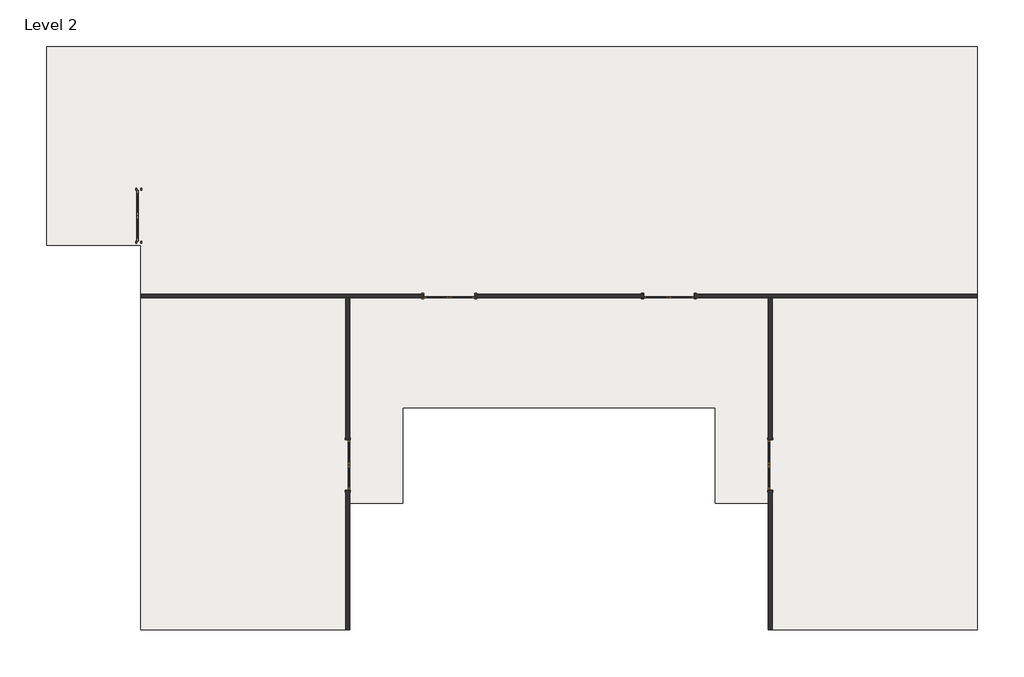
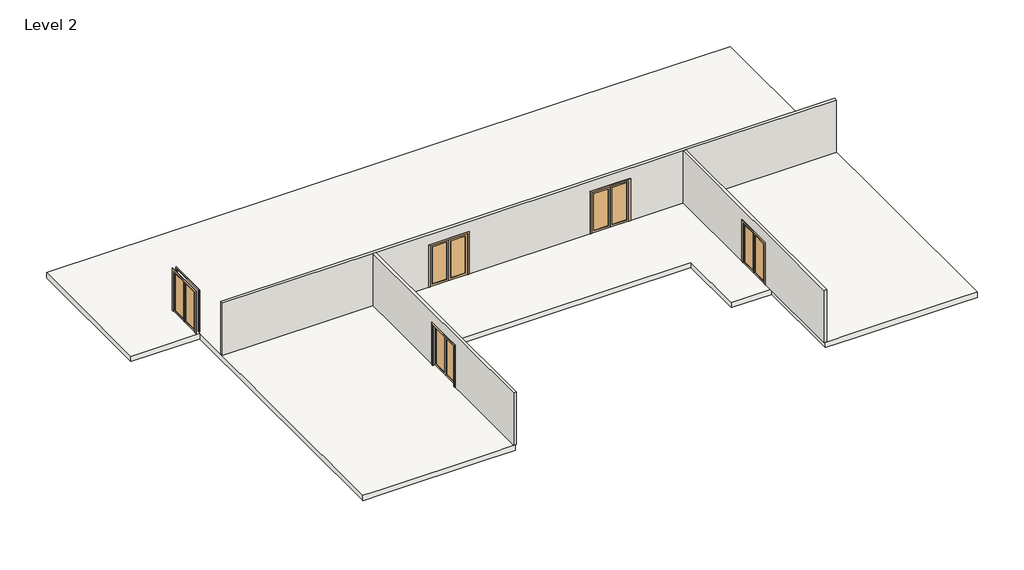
# One storey, incomplete: 5 doors, 3 walls, 1 slab.
"""IFC4 building model written with IfcOpenShell, lengths in millimetres."""

from ifc_helpers import new_model, si_unit, origin, place, context, project, spatial, faceted_brep, transform, mapped, element, save
from components import door_cb31edf2, door_3f2f997e

model = new_model("IFC4")

# Units and contexts
model_context = context("Model", 3, world=origin())
ifc_project = project(units=[si_unit("LENGTHUNIT", "METRE", prefix="MILLI")], contexts=[model_context])

# Site, building, storey
site = spatial("IfcSite", under=ifc_project)
building = spatial("IfcBuilding", under=site)
storey = spatial("IfcBuildingStorey", under=building, Name="Level 2", Elevation=3048.0)

# Doors
placement = place(None, origin())
door_shape = door_cb31edf2(model_context)
element("IfcDoor", 1, ObjectType="Door-Double-Glass : 72\" x 84\"", at=placement, inside=storey, context=model_context, shape_type="MappedRepresentation", body=[
    mapped(door_shape, transform((-18248.748632, 9505.1983604, 3048.0), x_axis=(0.0, 1.0, 0.0), y_axis=(-1.0, 0.0, 0.0), z_axis=(0.0, 0.0, 1.0))),
])
door_2_shape = door_3f2f997e(model_context)
element("IfcDoor", 2, ObjectType="Door-Double-Glass : 72\" x 84\"", at=placement, inside=storey, context=model_context, shape_type="MappedRepresentation", body=[
    mapped(door_2_shape, transform((-10711.298632, 513.5983604, 3048.0), x_axis=(0.0, -1.0, 0.0), y_axis=(1.0, 0.0, 0.0), z_axis=(0.0, 0.0, 1.0))),
])
element("IfcDoor", 3, ObjectType="Door-Double-Glass : 72\" x 84\"", at=placement, inside=storey, context=model_context, shape_type="MappedRepresentation", body=[
    mapped(door_2_shape, transform((4533.463868, 513.5983604, 3048.0), x_axis=(0.0, 1.0, 0.0), y_axis=(-1.0, 0.0, 0.0), z_axis=(0.0, 0.0, 1.0))),
])
element("IfcDoor", 4, ObjectType="Door-Double-Glass : 72\" x 84\"", at=placement, inside=storey, context=model_context, shape_type="MappedRepresentation", body=[
    mapped(door_2_shape, transform((-7051.317382, 6611.9796104, 3048.0), x_axis=(-1.0, 0.0, 0.0), y_axis=(0.0, -1.0, 0.0), z_axis=(0.0, 0.0, 1.0))),
])
element("IfcDoor", 5, ObjectType="Door-Double-Glass : 72\" x 84\"", at=placement, inside=storey, context=model_context, shape_type="MappedRepresentation", body=[
    mapped(door_2_shape, transform((873.482618, 6611.9796104, 3048.0), x_axis=(-1.0, 0.0, 0.0), y_axis=(0.0, -1.0, 0.0), z_axis=(0.0, 0.0, 1.0))),
])

# Slab
element("IfcSlab", 6, ObjectType="Wood Joist 10\" - Wood Finish", at=placement, inside=storey, context=model_context, shape_type="Brep", body=[
    faceted_brep([(12008.207618, 15610.7233604, 2774.95), (12008.207618, 15598.0233604, 2774.95), (12008.207618, -5439.5266396, 2774.95), (11995.507618, -5439.5266396, 2774.95), (11084.282618, -5439.5266396, 2774.95), (5902.682618, -5439.5266396, 2774.95), (4531.082618, -5439.5266396, 2774.95), (4531.082618, -5426.8266396, 2774.95), (4531.082618, -867.5266396, 2774.95), (2549.882618, -867.5266396, 2774.95), (2549.882618, 2570.7578314, 2774.95), (-8727.717382, 2570.7578314, 2774.95), (-8727.717382, -867.5266396, 2774.95), (-10708.917382, -867.5266396, 2774.95), (-10708.917382, -5426.8266396, 2774.95), (-10708.917382, -5439.5266396, 2774.95), (-12080.517382, -5439.5266396, 2774.95), (-17262.117382, -5439.5266396, 2774.95), (-18186.042382, -5439.5266396, 2774.95), (-18186.042382, -5426.8266396, 2774.95), (-18186.042382, 8438.3983604, 2774.95), (-21580.117382, 8438.3983604, 2774.95), (-21580.117382, 15610.7233604, 2774.95), (-21424.542382, 15610.7233604, 2774.95), (-10708.917382, 15610.7233604, 2774.95), (4531.082618, 15610.7233604, 2774.95), (12008.207618, 15610.7233604, 3048.0), (4531.082618, 15610.7233604, 3048.0), (-10708.917382, 15610.7233604, 3048.0), (-21424.542382, 15610.7233604, 3048.0), (-21580.117382, 15610.7233604, 3048.0), (-21580.117382, 8438.3983604, 3048.0), (-18186.042382, 8438.3983604, 3048.0), (-18186.042382, -5426.8266396, 3048.0), (-18186.042382, -5439.5266396, 3048.0), (-17262.117382, -5439.5266396, 3048.0), (-12080.517382, -5439.5266396, 3048.0), (-10708.917382, -5439.5266396, 3048.0), (-10708.917382, -5426.8266396, 3048.0), (-10708.917382, -867.5266396, 3048.0), (-8727.717382, -867.5266396, 3048.0), (-8727.717382, 2570.7578314, 3048.0), (2549.882618, 2570.7578314, 3048.0), (2549.882618, -867.5266396, 3048.0), (4531.082618, -867.5266396, 3048.0), (4531.082618, -5426.8266396, 3048.0), (4531.082618, -5439.5266396, 3048.0), (5902.682618, -5439.5266396, 3048.0), (11084.282618, -5439.5266396, 3048.0), (11995.507618, -5439.5266396, 3048.0), (12008.207618, -5439.5266396, 3048.0), (12008.207618, 15598.0233604, 3048.0)], [[[0, 1, 2, 3, 4, 5, 6, 7, 8, 9, 10, 11, 12, 13, 14, 15, 16, 17, 18, 19, 20, 21, 22, 23, 24, 25]], [[26, 27, 28, 29, 30, 31, 32, 33, 34, 35, 36, 37, 38, 39, 40, 41, 42, 43, 44, 45, 46, 47, 48, 49, 50, 51]], [[2, 1, 0, 26, 51, 50]], [[6, 5, 4, 3, 2, 50, 49, 48, 47, 46]], [[10, 9, 43, 42]], [[11, 10, 42, 41]], [[12, 11, 41, 40]], [[18, 17, 16, 15, 37, 36, 35, 34]], [[20, 19, 18, 34, 33, 32]], [[21, 20, 32, 31]], [[22, 21, 31, 30]], [[0, 25, 24, 23, 22, 30, 29, 28, 27, 26]], [[8, 7, 6, 46, 45, 44]], [[9, 8, 44, 43]], [[13, 12, 40, 39]], [[15, 14, 13, 39, 38, 37]]]),
])

# Walls
element("IfcWall", 7, ObjectType="Interior - 5 1/2\" Partition (1-hr)", at=placement, inside=storey, context=model_context, shape_type="Brep", body=[
    faceted_brep([(-6136.917382, 6539.7483604, 3048.0), (-40.917382, 6539.7483604, 3048.0), (-40.917382, 6539.7483604, 5181.6), (1787.882618, 6539.7483604, 5181.6), (1787.882618, 6539.7483604, 3048.0), (4461.232618, 6539.7483604, 3048.0), (4600.932618, 6539.7483604, 3048.0), (11995.507618, 6539.7483604, 3048.0), (11995.507618, 6539.7483604, 5772.15), (4600.932618, 6539.7483604, 5772.15), (4461.232618, 6539.7483604, 5772.15), (-10639.067382, 6539.7483604, 5772.15), (-10778.767382, 6539.7483604, 5772.15), (-18173.342382, 6539.7483604, 5772.15), (-18173.342382, 6539.7483604, 3048.0), (-10778.767382, 6539.7483604, 3048.0), (-10639.067382, 6539.7483604, 3048.0), (-7965.717382, 6539.7483604, 3048.0), (-7965.717382, 6539.7483604, 5181.6), (-6136.917382, 6539.7483604, 5181.6), (-40.917382, 6679.4483604, 5181.6), (-40.917382, 6679.4483604, 3048.0), (-6136.917382, 6679.4483604, 3048.0), (-6136.917382, 6679.4483604, 5181.6), (-7965.717382, 6679.4483604, 5181.6), (-7965.717382, 6679.4483604, 3048.0), (-18173.342382, 6679.4483604, 3048.0), (-18173.342382, 6679.4483604, 5772.15), (11995.507618, 6679.4483604, 5772.15), (11995.507618, 6679.4483604, 3048.0), (1787.882618, 6679.4483604, 3048.0), (1787.882618, 6679.4483604, 5181.6)], [[[0, 1, 2, 3, 4, 5, 6, 7, 8, 9, 10, 11, 12, 13, 14, 15, 16, 17, 18, 19]], [[20, 21, 22, 23, 24, 25, 26, 27, 28, 29, 30, 31]], [[26, 25, 17, 16, 15, 14]], [[30, 29, 7, 6, 5, 4]], [[22, 21, 1, 0]], [[13, 12, 11, 10, 9, 8, 28, 27]], [[8, 7, 29, 28]], [[14, 13, 27, 26]], [[2, 1, 21, 20]], [[3, 2, 20, 31]], [[4, 3, 31, 30]], [[18, 17, 25, 24]], [[19, 18, 24, 23]], [[0, 19, 23, 22]]]),
])
element("IfcWall", 8, ObjectType="Interior - 5 1/2\" Partition (1-hr)", at=placement, inside=storey, context=model_context, shape_type="Brep", body=[
    faceted_brep([(4461.232618, 6539.7483604, 3048.0), (4461.232618, 1427.9983604, 3048.0), (4461.232618, 1427.9983604, 5181.6), (4461.232618, -400.8016396, 5181.6), (4461.232618, -400.8016396, 3048.0), (4461.232618, -5426.8266396, 3048.0), (4461.232618, -5426.8266396, 5772.15), (4461.232618, 6539.7483604, 5772.15), (4600.932618, 1427.9983604, 5181.6), (4600.932618, 1427.9983604, 3048.0), (4600.932618, 6539.7483604, 3048.0), (4600.932618, 6539.7483604, 5772.15), (4600.932618, -5426.8266396, 5772.15), (4600.932618, -5426.8266396, 3048.0), (4600.932618, -400.8016396, 3048.0), (4600.932618, -400.8016396, 5181.6), (4531.082618, -5426.8266396, 3048.0)], [[[0, 1, 2, 3, 4, 5, 6, 7]], [[8, 9, 10, 11, 12, 13, 14, 15]], [[10, 9, 1, 0]], [[14, 13, 16, 5, 4]], [[0, 7, 11, 10]], [[6, 5, 16, 13, 12]], [[7, 6, 12, 11]], [[2, 1, 9, 8]], [[3, 2, 8, 15]], [[4, 3, 15, 14]]]),
])
element("IfcWall", 9, ObjectType="Interior - 5 1/2\" Partition (1-hr)", at=placement, inside=storey, context=model_context, shape_type="Brep", body=[
    faceted_brep([(-10778.767382, -400.8016396, 5181.6), (-10778.767382, -400.8016396, 3048.0), (-10778.767382, -5426.8266396, 3048.0), (-10778.767382, -5426.8266396, 5772.15), (-10778.767382, 6539.7483604, 5772.15), (-10778.767382, 6539.7483604, 3048.0), (-10778.767382, 1427.9983604, 3048.0), (-10778.767382, 1427.9983604, 5181.6), (-10639.067382, -5426.8266396, 3048.0), (-10639.067382, -400.8016396, 3048.0), (-10639.067382, -400.8016396, 5181.6), (-10639.067382, 1427.9983604, 5181.6), (-10639.067382, 1427.9983604, 3048.0), (-10639.067382, 6539.7483604, 3048.0), (-10639.067382, 6539.7483604, 5772.15), (-10639.067382, -5426.8266396, 5772.15), (-10708.917382, -5426.8266396, 3048.0)], [[[0, 1, 2, 3, 4, 5, 6, 7]], [[8, 9, 10, 11, 12, 13, 14, 15]], [[2, 1, 9, 8, 16]], [[6, 5, 13, 12]], [[5, 4, 14, 13]], [[3, 2, 16, 8, 15]], [[4, 3, 15, 14]], [[10, 9, 1, 0]], [[11, 10, 0, 7]], [[12, 11, 7, 6]]]),
])

save(model, "model.ifc")
